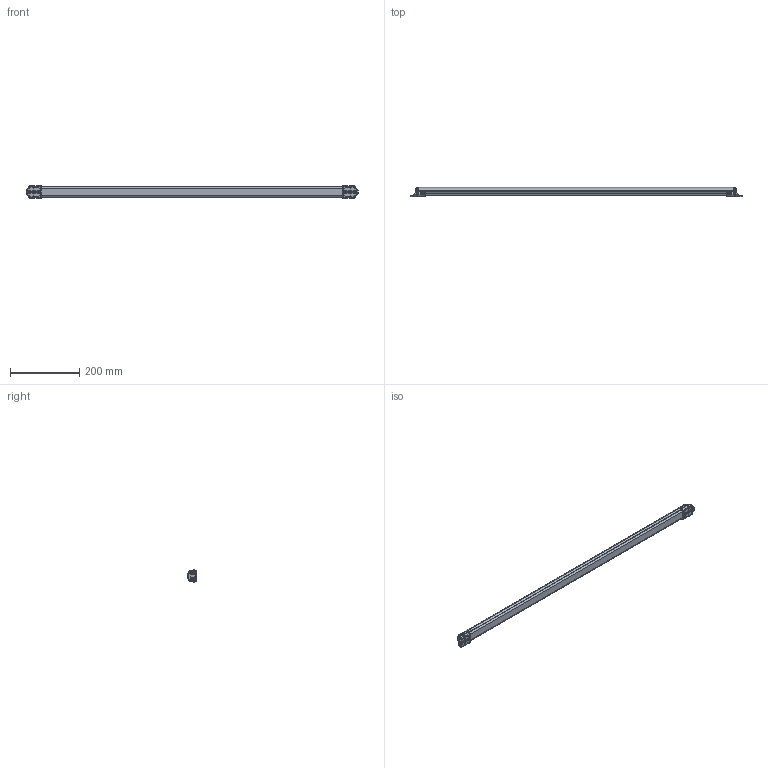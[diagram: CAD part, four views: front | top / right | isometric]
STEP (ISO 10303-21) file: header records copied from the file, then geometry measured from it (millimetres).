
FILE_DESCRIPTION (( 'STEP AP203' ), '1' );
FILE_NAME ('QKR572_3D00156 QCML(C)-900 3D紫賊_220807.STEP', '2022-08-07T06:23:26', ( 'QKR_NOTE119' ), ( '' ), 'SwSTEP 2.0', 'SolidWorks 2019', '' );
FILE_SCHEMA (( 'CONFIG_CONTROL_DESIGN' ));
Products named in the file (1): QKR572_3D00156 QCML(C)-900 3D紫賊_220807
Bounding box: 960.1 x 26.1 x 35.92 mm (x, y, z)
Volume: 607027 mm3; surface area: 100147.8 mm2
Topology: 1 solids, 6 shells, 1143 faces, 3005 edges, 1874 vertices
Faces by surface type: cylinder 359, plane 290, bspline 181, torus 167, cone 110, sphere 36
Entity records: 44686 total; most frequent: CARTESIAN_POINT 19003, ORIENTED_EDGE 5946, DIRECTION 4604, EDGE_CURVE 2973, AXIS2_PLACEMENT_3D 1875, VERTEX_POINT 1874, EDGE_LOOP 1197, B_SPLINE_CURVE_WITH_KNOTS 1147
